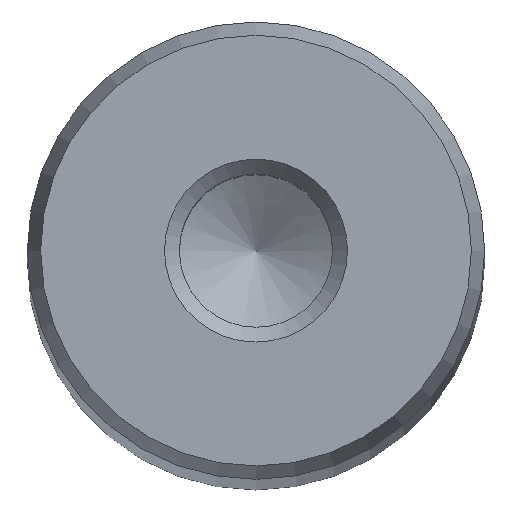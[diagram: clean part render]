
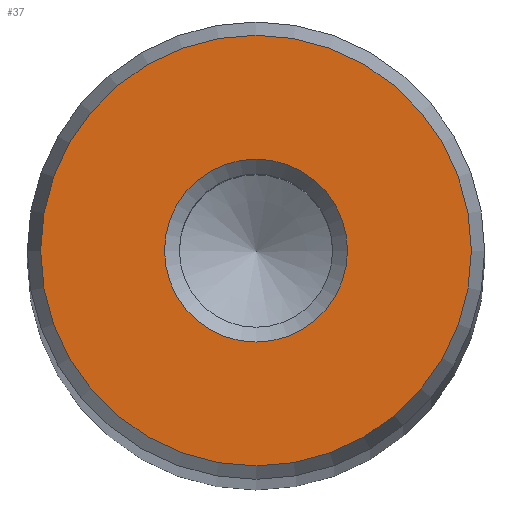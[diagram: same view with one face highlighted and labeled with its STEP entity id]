
A CAD part, top view. The second image highlights one B-rep face of the part: STEP entity #37.
In plain terms, the highlighted planar face has unit normal (0, 0, 1).
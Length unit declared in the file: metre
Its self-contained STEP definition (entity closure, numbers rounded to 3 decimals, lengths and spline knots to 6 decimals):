
#37 = ADVANCED_FACE( '', ( #80, #81 ), #82, .T. );
#80 = FACE_OUTER_BOUND( '', #139, .T. );
#81 = FACE_BOUND( '', #140, .T. );
#82 = PLANE( '', #141 );
#139 = EDGE_LOOP( '', ( #192 ) );
#140 = EDGE_LOOP( '', ( #193 ) );
#141 = AXIS2_PLACEMENT_3D( '', #194, #195, #196 );
#192 = ORIENTED_EDGE( '', *, *, #270, .T. );
#193 = ORIENTED_EDGE( '', *, *, #271, .T. );
#194 = CARTESIAN_POINT( '', ( 0., 0., 0.336 ) );
#195 = DIRECTION( '', ( 0., 0., 1. ) );
#196 = DIRECTION( '', ( 1., 0., 0. ) );
#270 = EDGE_CURVE( '', #297, #297, #298, .T. );
#271 = EDGE_CURVE( '', #299, #299, #300, .T. );
#297 = VERTEX_POINT( '', #334 );
#298 = CIRCLE( '', #335, 0.011772 );
#299 = VERTEX_POINT( '', #336 );
#300 = CIRCLE( '', #337, 0.005 );
#334 = CARTESIAN_POINT( '', ( 0.011772, 0., 0.336 ) );
#335 = AXIS2_PLACEMENT_3D( '', #370, #371, #372 );
#336 = CARTESIAN_POINT( '', ( 0.005, 0., 0.336 ) );
#337 = AXIS2_PLACEMENT_3D( '', #373, #374, #375 );
#370 = CARTESIAN_POINT( '', ( 0., 0., 0.336 ) );
#371 = DIRECTION( '', ( 0., 0., 1. ) );
#372 = DIRECTION( '', ( 1., 0., 0. ) );
#373 = CARTESIAN_POINT( '', ( 0., 0., 0.336 ) );
#374 = DIRECTION( '', ( 0., 0., -1. ) );
#375 = DIRECTION( '', ( 1., 0., 0. ) );
